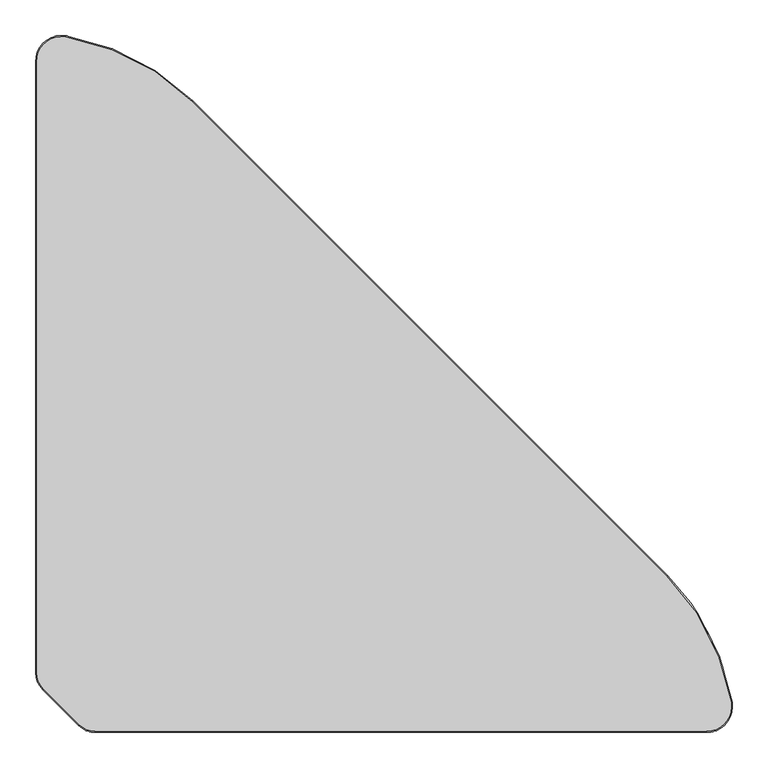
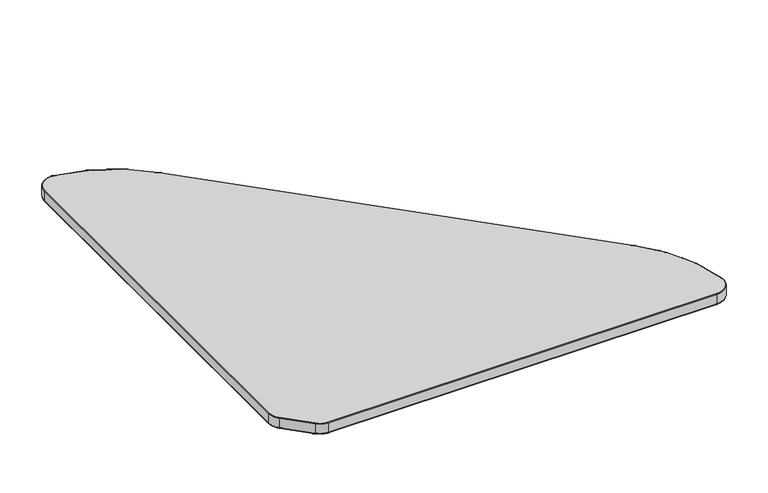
"""IFC4 building model written with IfcOpenShell, lengths in millimetres: furniture geometry, Furniture_Wilkhahn_mAx_461-10 : mAx_461-10_900L x 900W x 730H-Straight with Plastic Lipping."""

import ifcopenshell
import ifcopenshell.guid

model = None  # the IFC model being written
_history = None  # IfcOwnerHistory: only IFC2X3 demands one
_inside = {}  # id of a spatial element -> (the spatial element, [elements in it])
_under = {}  # id of a project, library or spatial element -> (it, [spatial elements below it])
_declared = {}  # id of a project -> (the project, [libraries it declares])
_typed = {}  # id of a type object -> (the type object, [elements of that type])
_made_of = {}  # id of a material, layer set ... -> (it, [elements and type objects made of it])


def new_model(schema):
    """Start an empty IFC model of exactly this schema.

    Asked for "IFC4X3", IfcOpenShell would pick the latest addendum, in which some entities
    have other attributes; the version numbers below select the first issue.
    IFC2X3 requires an IfcOwnerHistory on every rooted entity: one is made here for all.
    """
    global model, _history
    if schema == "IFC4X3":
        model = ifcopenshell.file(schema_version=(4, 3, 0, 0))
    else:
        model = ifcopenshell.file(schema=schema)
    _inside.clear()
    _under.clear()
    _declared.clear()
    _typed.clear()
    _made_of.clear()
    _history = None
    if model.schema == "IFC2X3":
        org = make("IfcOrganization", Name="unknown")
        user = make(
            "IfcPersonAndOrganization",
            ThePerson=make("IfcPerson", FamilyName="unknown"),
            TheOrganization=org,
        )
        app = make(
            "IfcApplication",
            ApplicationDeveloper=org,
            Version="unknown",
            ApplicationFullName="unknown",
            ApplicationIdentifier="unknown",
        )
        _history = make(
            "IfcOwnerHistory",
            OwningUser=user,
            OwningApplication=app,
            ChangeAction="ADDED",
            CreationDate=0,
        )
    return model


def make(cls, **values):
    """One entity of the class cls with the attributes given. An attribute that is None is left unset."""
    return model.create_entity(
        cls, **{name: value for name, value in values.items() if value is not None}
    )


def rooted(cls, **values):
    """An entity with a GlobalId (a new one), such as an element, a storey or a relation."""
    return make(cls, GlobalId=ifcopenshell.guid.new(), OwnerHistory=_history, **values)


def si_unit(unit_type, name, prefix=None):
    """IfcSIUnit, for example si_unit("LENGTHUNIT", "METRE", prefix="MILLI")."""
    return make("IfcSIUnit", UnitType=unit_type, Prefix=prefix, Name=name)


def assignment(units):
    """IfcUnitAssignment: the units of a project."""
    return None if units is None else make("IfcUnitAssignment", Units=units)


def point(xyz):
    """IfcCartesianPoint."""
    return None if xyz is None else make("IfcCartesianPoint", Coordinates=xyz)


def direction(xyz):
    """IfcDirection."""
    return None if xyz is None else make("IfcDirection", DirectionRatios=xyz)


def frame(location, z_axis=None, x_axis=None):
    """IfcAxis2Placement3D, a coordinate frame: its origin and axes. An axis left out is left unset."""
    return make(
        "IfcAxis2Placement3D",
        Location=point(location),
        Axis=direction(z_axis),
        RefDirection=direction(x_axis),
    )


def frame_2d(location, x_axis=None):
    """IfcAxis2Placement2D, a coordinate frame in the plane: its origin and x axis."""
    return make(
        "IfcAxis2Placement2D", Location=point(location), RefDirection=direction(x_axis)
    )


def origin():
    """The frame at (0, 0, 0) with its axes left unset."""
    return frame((0.0, 0.0, 0.0))


def place(relative_to, where):
    """IfcLocalPlacement: puts the frame where relative to a parent placement (None: the world)."""
    return make(
        "IfcLocalPlacement", PlacementRelTo=relative_to, RelativePlacement=where
    )


def context(
    kind, dimensions, precision=None, world=None, true_north=None, identifier=None
):
    """IfcGeometricRepresentationContext, for example the 3D "Model" context."""
    return make(
        "IfcGeometricRepresentationContext",
        ContextIdentifier=identifier,
        ContextType=kind,
        CoordinateSpaceDimension=dimensions,
        Precision=precision,
        WorldCoordinateSystem=world,
        TrueNorth=true_north,
    )


def project(units=None, contexts=None):
    """IfcProject with its units and contexts."""
    return rooted(
        "IfcProject",
        Name="project",
        RepresentationContexts=contexts,
        UnitsInContext=assignment(units),
    )


def spatial(cls, under=None, at=None, **own):
    """A site, building, storey or space (cls), placed at a placement, below another one or the project."""
    s = rooted(cls, ObjectPlacement=at, **own)
    if under is not None:
        _under.setdefault(under.id(), (under, []))[1].append(s)
    return s


def polyline(points):
    """IfcPolyline through the points."""
    return make("IfcPolyline", Points=[point(p) for p in points])


def circle_curve(where, radius):
    """IfcCircle in the frame where."""
    return make("IfcCircle", Position=where, Radius=radius)


def ellipse_curve(where, semi_axis1, semi_axis2):
    """IfcEllipse in the frame where."""
    return make(
        "IfcEllipse", Position=where, SemiAxis1=semi_axis1, SemiAxis2=semi_axis2
    )


def trimmed(basis, trim1, trim2, sense, master):
    """IfcTrimmedCurve: the piece of a basis curve between two trims."""
    return make(
        "IfcTrimmedCurve",
        BasisCurve=basis,
        Trim1=trim1,
        Trim2=trim2,
        SenseAgreement=sense,
        MasterRepresentation=master,
    )


def segment(curve, same_sense, transition):
    """IfcCompositeCurveSegment."""
    return make(
        "IfcCompositeCurveSegment",
        Transition=transition,
        SameSense=same_sense,
        ParentCurve=curve,
    )


def composite_curve(segments, self_intersect=None):
    """IfcCompositeCurve: segments joined end to end."""
    return make("IfcCompositeCurve", Segments=segments, SelfIntersect=self_intersect)


def outline(outer, holes=None, kind="AREA"):
    """IfcArbitraryClosedProfileDef: a profile drawn as a closed curve; with holes, ...WithVoids."""
    if holes is None:
        return make("IfcArbitraryClosedProfileDef", ProfileType=kind, OuterCurve=outer)
    return make(
        "IfcArbitraryProfileDefWithVoids",
        ProfileType=kind,
        OuterCurve=outer,
        InnerCurves=holes,
    )


def extrude(swept, where, along, depth):
    """IfcExtrudedAreaSolid: the profile swept, set in the frame where, extruded along a direction by depth."""
    return make(
        "IfcExtrudedAreaSolid",
        SweptArea=swept,
        Position=where,
        ExtrudedDirection=direction(along),
        Depth=depth,
    )


def shape(context_of_items, identifier, shape_type, items):
    """IfcShapeRepresentation: the items that make up one representation, for example the "Body"."""
    return make(
        "IfcShapeRepresentation",
        ContextOfItems=context_of_items,
        RepresentationIdentifier=identifier,
        RepresentationType=shape_type,
        Items=items,
    )


def source(mapping_origin, context_of_items, identifier, shape_type, items):
    """IfcRepresentationMap: a shape defined once, which mapped items show again and again."""
    return make(
        "IfcRepresentationMap",
        MappingOrigin=mapping_origin,
        MappedRepresentation=shape(context_of_items, identifier, shape_type, items),
    )


def transform(
    local_origin,
    x_axis=None,
    y_axis=None,
    z_axis=None,
    scale=None,
    scale2=None,
    scale3=None,
    uniform=True,
):
    """IfcCartesianTransformationOperator3D, or its non-uniform kind. x_axis, y_axis, z_axis: its Axis1, 2, 3."""
    if uniform:
        return make(
            "IfcCartesianTransformationOperator3D",
            Axis1=direction(x_axis),
            Axis2=direction(y_axis),
            LocalOrigin=point(local_origin),
            Scale=scale,
            Axis3=direction(z_axis),
        )
    return make(
        "IfcCartesianTransformationOperator3DnonUniform",
        Axis1=direction(x_axis),
        Axis2=direction(y_axis),
        LocalOrigin=point(local_origin),
        Scale=scale,
        Axis3=direction(z_axis),
        Scale2=scale2,
        Scale3=scale3,
    )


def mapped(mapping_source, mapping_target):
    """IfcMappedItem: shows the shape of a source again, moved by a transform."""
    return make(
        "IfcMappedItem", MappingSource=mapping_source, MappingTarget=mapping_target
    )


def made_of(thing, what):
    """Note that an element or type object is made of a material, layer set ...; save() writes the relation."""
    if what is not None:
        _made_of.setdefault(what.id(), (what, []))[1].append(thing)
    return thing


def element(
    cls,
    number,
    at=None,
    inside=None,
    cuts=None,
    type_object=None,
    material=None,
    context=None,
    identifier="Body",
    shape_type=None,
    held_by="IfcProductDefinitionShape",
    body=None,
    shapes=None,
    **own,
):
    """One element of the class cls, such as IfcWall. Its Tag is "e" and its number.

    at: its placement. inside: the storey or other place that contains it. cuts: it is an
    opening in that element (IfcRelVoidsElement). A single representation is given by context,
    identifier, shape_type and body (its items); several are given by shapes. held_by: the class
    of the entity that holds the representations. save() writes the other relations.
    """
    e = rooted(cls, Tag="e%d" % number, ObjectPlacement=at, **own)
    if body is not None:
        shapes = [shape(context, identifier, shape_type, body)]
    if shapes is not None:
        e.Representation = make(held_by, Representations=shapes)
    if inside is not None:
        _inside.setdefault(inside.id(), (inside, []))[1].append(e)
    if cuts is not None:
        rooted(
            "IfcRelVoidsElement", RelatingBuildingElement=cuts, RelatedOpeningElement=e
        )
    if type_object is not None:
        _typed.setdefault(type_object.id(), (type_object, []))[1].append(e)
    return made_of(e, material)


def aggregate(whole, parts):
    """IfcRelAggregates: a whole, such as a stair, and the parts it consists of."""
    return rooted("IfcRelAggregates", RelatingObject=whole, RelatedObjects=parts)


def save(model, path):
    """Write the relations noted so far, then the file.

    IfcRelAggregates (storeys below a building ...), IfcRelContainedInSpatialStructure (elements
    in a storey), IfcRelDefinesByType, IfcRelAssociatesMaterial and IfcRelDeclares: one each for
    every whole, place, type object, material and project.
    """
    for whole, parts in _under.values():
        aggregate(whole, parts)
    for where, things in _inside.values():
        rooted(
            "IfcRelContainedInSpatialStructure",
            RelatedElements=things,
            RelatingStructure=where,
        )
    for kind, things in _typed.values():
        rooted("IfcRelDefinesByType", RelatedObjects=things, RelatingType=kind)
    for what, things in _made_of.values():
        rooted("IfcRelAssociatesMaterial", RelatedObjects=things, RelatingMaterial=what)
    for by, libraries in _declared.values():
        rooted("IfcRelDeclares", RelatingContext=by, RelatedDefinitions=libraries)
    model.write(path)


def plane_surface(at):
    """IfcPlane: the flat surface through the origin of the frame at, square to its z axis."""
    return make("IfcPlane", Position=at)


def cylinder_surface(at, radius):
    """IfcCylindricalSurface: all points at the distance radius from the z axis of the frame at."""
    return make("IfcCylindricalSurface", Position=at, Radius=radius)


def revolved_surface(curve, axis_point, axis_direction):
    """IfcSurfaceOfRevolution: the curve turned about the line through axis_point along axis_direction."""
    return make(
        "IfcSurfaceOfRevolution",
        SweptCurve=make("IfcArbitraryOpenProfileDef", ProfileType="CURVE", Curve=curve),
        AxisPosition=make("IfcAxis1Placement", Location=point(axis_point), Axis=direction(axis_direction)),
    )


def advanced_brep(points, edges, surfaces, faces):
    """IfcAdvancedBrep: a solid bounded by faces that lie on surfaces and meet in shared edges.

    An edge is (start, end): straight between two places in points (the first is 0);
    or (start, end, curve); or (start, end, curve, False) where it runs against its curve.
    A face is (place in surfaces, loops), or (place, loops, False) where it looks against
    its surface's normal. A loop lists edges by number (the first is 1), with a minus sign
    where the edge is run from its end to its start. The first loop is the outer one.
    """
    corners = [point(p) for p in points]
    vertices = [make("IfcVertexPoint", VertexGeometry=c) for c in corners]
    made = []
    for start, end, *more in edges:
        made.append(
            make(
                "IfcEdgeCurve",
                EdgeStart=vertices[start],
                EdgeEnd=vertices[end],
                EdgeGeometry=more[0] if more else make("IfcPolyline", Points=[corners[start], corners[end]]),
                SameSense=more[1] if len(more) > 1 else True,
            )
        )
    hull = []
    for where, loops, *sense in faces:
        bounds = []
        for j, loop in enumerate(loops):
            ring = [make("IfcOrientedEdge", EdgeElement=made[abs(k) - 1], Orientation=k > 0) for k in loop]
            bounds.append(
                make(
                    "IfcFaceOuterBound" if j == 0 else "IfcFaceBound",
                    Bound=make("IfcEdgeLoop", EdgeList=ring),
                    Orientation=True,
                )
            )
        hull.append(make("IfcAdvancedFace", Bounds=bounds, FaceSurface=surfaces[where], SameSense=sense[0] if sense else True))
    return make("IfcAdvancedBrep", Outer=make("IfcClosedShell", CfsFaces=hull))


def furniture_2c85a095(model_context):
    return source(origin(), model_context, "Body", "SolidModel", [
        extrude(outline(composite_curve([segment(polyline([(699.4444598, -248.2), (699.4444598, -263.2), (698.6411472, -263.2)]), True, "CONTINUOUS"), segment(trimmed(circle_curve(frame_2d((698.6411472, -240.7)), 22.5), [point((698.6411472, -263.2))], [point((676.1411472, -240.7))], False, "CARTESIAN"), True, "CONTINUOUS"), segment(polyline([(676.1411472, -240.7), (676.1411472, -230.9851209)]), True, "CONTINUOUS"), segment(trimmed(circle_curve(frame_2d((691.6411472, -230.9851209)), 15.5), [point((676.1411472, -230.9851209))], [point((691.6411472, -215.4851209))], False, "CARTESIAN"), True, "CONTINUOUS"), segment(polyline([(691.6411472, -215.4851209), (698.2216542, -215.4851209), (698.2216542, -230.4851209), (691.6411472, -230.4851209)]), True, "CONTINUOUS"), segment(trimmed(circle_curve(frame_2d((691.6411472, -230.9851209)), 0.5), [point((691.6411472, -230.4851209))], [point((691.1411472, -230.9851209))], True, "CARTESIAN"), True, "CONTINUOUS"), segment(polyline([(691.1411472, -230.9851209), (691.1411472, -240.7)]), True, "CONTINUOUS"), segment(trimmed(circle_curve(frame_2d((698.6411472, -240.7)), 7.5), [point((691.1411472, -240.7))], [point((698.6411472, -248.2))], True, "CARTESIAN"), True, "CONTINUOUS"), segment(polyline([(698.6411472, -248.2), (699.4444598, -248.2)]), True, "CONTINUOUS")], self_intersect=False)), frame((0.0, -787.8982692, 0.0), z_axis=(0.0, 1.0, 0.0), x_axis=(0.0, 0.0, 1.0)), (0.0, 0.0, 1.0), 13.865484),
        extrude(outline(composite_curve([segment(trimmed(circle_curve(frame_2d((-203.2, -811.5585218)), 9.0), [point((-194.2, -811.5585218))], [point((-203.2, -820.5585218))], False, "CARTESIAN"), True, "CONTINUOUS"), segment(polyline([(-203.2, -820.5585218), (-308.2, -820.5585218)]), True, "CONTINUOUS"), segment(trimmed(circle_curve(frame_2d((-308.2, -811.5585218)), 9.0), [point((-308.2, -820.5585218))], [point((-317.2, -811.5585218))], False, "CARTESIAN"), True, "CONTINUOUS"), segment(polyline([(-317.2, -811.5585218), (-317.2, -750.3725325)]), True, "CONTINUOUS"), segment(trimmed(circle_curve(frame_2d((-308.2, -750.3725325)), 9.0), [point((-317.2, -750.3725325))], [point((-308.2, -741.3725325))], False, "CARTESIAN"), True, "CONTINUOUS"), segment(polyline([(-308.2, -741.3725325), (-203.2, -741.3725325)]), True, "CONTINUOUS"), segment(trimmed(circle_curve(frame_2d((-203.2, -750.3725325)), 9.0), [point((-203.2, -741.3725325))], [point((-194.2, -750.3725325))], False, "CARTESIAN"), True, "CONTINUOUS"), segment(polyline([(-194.2, -750.3725325), (-194.2, -811.5585218)]), True, "CONTINUOUS")], self_intersect=False)), frame((0.0, 0.0, 700.0), z_axis=(0.0, 0.0, 1.0), x_axis=(1.0, 0.0, 0.0)), (0.0, 0.0, 1.0), 5.0),
        extrude(outline(composite_curve([segment(polyline([(699.4444598, -263.2), (698.6411472, -263.2)]), True, "CONTINUOUS"), segment(trimmed(circle_curve(frame_2d((698.6411472, -240.7)), 22.5), [point((698.6411472, -263.2))], [point((676.1411472, -240.7))], False, "CARTESIAN"), True, "CONTINUOUS"), segment(polyline([(676.1411472, -240.7), (676.1411472, -230.9851209)]), True, "CONTINUOUS"), segment(trimmed(circle_curve(frame_2d((691.6411472, -230.9851209)), 15.5), [point((676.1411472, -230.9851209))], [point((691.6411472, -215.4851209))], False, "CARTESIAN"), True, "CONTINUOUS"), segment(polyline([(691.6411472, -215.4851209), (698.2216542, -215.4851209), (698.2216542, -230.4851209), (691.6411472, -230.4851209)]), True, "CONTINUOUS"), segment(trimmed(circle_curve(frame_2d((691.6411472, -230.9851209)), 0.5), [point((691.6411472, -230.4851209))], [point((691.1411472, -230.9851209))], True, "CARTESIAN"), True, "CONTINUOUS"), segment(polyline([(691.1411472, -230.9851209), (691.1411472, -240.7)]), True, "CONTINUOUS"), segment(trimmed(circle_curve(frame_2d((698.6411472, -240.7)), 7.5), [point((691.1411472, -240.7))], [point((698.6411472, -248.2))], True, "CARTESIAN"), True, "CONTINUOUS"), segment(polyline([(698.6411472, -248.2), (699.4444598, -248.2), (699.4444598, -263.2)]), True, "CONTINUOUS")], self_intersect=False)), frame((0.0, -1087.8982692, 0.0), z_axis=(0.0, 1.0, 0.0), x_axis=(0.0, 0.0, 1.0)), (0.0, 0.0, 1.0), 13.865484),
        extrude(outline(composite_curve([segment(polyline([(-194.2, -1050.3725325), (-194.2, -1111.5585218)]), True, "CONTINUOUS"), segment(trimmed(circle_curve(frame_2d((-203.2, -1111.5585218)), 9.0), [point((-194.2, -1111.5585218))], [point((-203.2, -1120.5585218))], False, "CARTESIAN"), True, "CONTINUOUS"), segment(polyline([(-203.2, -1120.5585218), (-308.2, -1120.5585218)]), True, "CONTINUOUS"), segment(trimmed(circle_curve(frame_2d((-308.2, -1111.5585218)), 9.0), [point((-308.2, -1120.5585218))], [point((-317.2, -1111.5585218))], False, "CARTESIAN"), True, "CONTINUOUS"), segment(polyline([(-317.2, -1111.5585218), (-317.2, -1050.3725325)]), True, "CONTINUOUS"), segment(trimmed(circle_curve(frame_2d((-308.2, -1050.3725325)), 9.0), [point((-317.2, -1050.3725325))], [point((-308.2, -1041.3725325))], False, "CARTESIAN"), True, "CONTINUOUS"), segment(polyline([(-308.2, -1041.3725325), (-203.2, -1041.3725325)]), True, "CONTINUOUS"), segment(trimmed(circle_curve(frame_2d((-203.2, -1050.3725325)), 9.0), [point((-203.2, -1041.3725325))], [point((-194.2, -1050.3725325))], False, "CARTESIAN"), True, "CONTINUOUS")], self_intersect=False)), frame((0.0, 0.0, 700.0), z_axis=(0.0, 0.0, 1.0), x_axis=(1.0, 0.0, 0.0)), (0.0, 0.0, 1.0), 5.0),
        extrude(outline(composite_curve([segment(polyline([(-1344.1655271, 699.4444598), (-1329.1655271, 699.4444598), (-1329.1655271, 698.6411472)]), True, "CONTINUOUS"), segment(trimmed(circle_curve(frame_2d((-1321.6655271, 698.6411472)), 7.5), [point((-1329.1655271, 698.6411472))], [point((-1321.6655271, 691.1411472))], True, "CARTESIAN"), True, "CONTINUOUS"), segment(polyline([(-1321.6655271, 691.1411472), (-1311.9506481, 691.1411472)]), True, "CONTINUOUS"), segment(trimmed(circle_curve(frame_2d((-1311.9506481, 691.6411472)), 0.5), [point((-1311.9506481, 691.1411472))], [point((-1311.4506481, 691.6411472))], True, "CARTESIAN"), True, "CONTINUOUS"), segment(polyline([(-1311.4506481, 691.6411472), (-1311.4506481, 698.2216542), (-1296.4506481, 698.2216542), (-1296.4506481, 691.6411472)]), True, "CONTINUOUS"), segment(trimmed(circle_curve(frame_2d((-1311.9506481, 691.6411472)), 15.5), [point((-1296.4506481, 691.6411472))], [point((-1311.9506481, 676.1411472))], False, "CARTESIAN"), True, "CONTINUOUS"), segment(polyline([(-1311.9506481, 676.1411472), (-1321.6655271, 676.1411472)]), True, "CONTINUOUS"), segment(trimmed(circle_curve(frame_2d((-1321.6655271, 698.6411472)), 22.5), [point((-1321.6655271, 676.1411472))], [point((-1344.1655271, 698.6411472))], False, "CARTESIAN"), True, "CONTINUOUS"), segment(polyline([(-1344.1655271, 698.6411472), (-1344.1655271, 699.4444598)]), True, "CONTINUOUS")], self_intersect=False)), frame((-6.932742, 0.0, 0.0), z_axis=(1.0, 0.0, 0.0), x_axis=(0.0, 1.0, 0.0)), (0.0, 0.0, 1.0), 13.865484),
        extrude(outline(composite_curve([segment(trimmed(circle_curve(frame_2d((30.5929946, -1284.1655271)), 9.0), [point((30.5929946, -1275.1655271))], [point((39.5929946, -1284.1655271))], False, "CARTESIAN"), True, "CONTINUOUS"), segment(polyline([(39.5929946, -1284.1655271), (39.5929946, -1389.1655271)]), True, "CONTINUOUS"), segment(trimmed(circle_curve(frame_2d((30.5929946, -1389.1655271)), 9.0), [point((39.5929946, -1389.1655271))], [point((30.5929946, -1398.1655271))], False, "CARTESIAN"), True, "CONTINUOUS"), segment(polyline([(30.5929946, -1398.1655271), (-30.5929946, -1398.1655271)]), True, "CONTINUOUS"), segment(trimmed(circle_curve(frame_2d((-30.5929946, -1389.1655271)), 9.0), [point((-30.5929946, -1398.1655271))], [point((-39.5929946, -1389.1655271))], False, "CARTESIAN"), True, "CONTINUOUS"), segment(polyline([(-39.5929946, -1389.1655271), (-39.5929946, -1284.1655271)]), True, "CONTINUOUS"), segment(trimmed(circle_curve(frame_2d((-30.5929946, -1284.1655271)), 9.0), [point((-39.5929946, -1284.1655271))], [point((-30.5929946, -1275.1655271))], False, "CARTESIAN"), True, "CONTINUOUS"), segment(polyline([(-30.5929946, -1275.1655271), (30.5929946, -1275.1655271)]), True, "CONTINUOUS")], self_intersect=False)), frame((0.0, 0.0, 700.0), z_axis=(0.0, 0.0, 1.0), x_axis=(1.0, 0.0, 0.0)), (0.0, 0.0, 1.0), 5.0),
        extrude(outline(composite_curve([segment(polyline([(-1329.1655271, 699.4444598), (-1329.1655271, 698.6411472)]), True, "CONTINUOUS"), segment(trimmed(circle_curve(frame_2d((-1321.6655271, 698.6411472)), 7.5), [point((-1329.1655271, 698.6411472))], [point((-1321.6655271, 691.1411472))], True, "CARTESIAN"), True, "CONTINUOUS"), segment(polyline([(-1321.6655271, 691.1411472), (-1311.9506481, 691.1411472)]), True, "CONTINUOUS"), segment(trimmed(circle_curve(frame_2d((-1311.9506481, 691.6411472)), 0.5), [point((-1311.9506481, 691.1411472))], [point((-1311.4506481, 691.6411472))], True, "CARTESIAN"), True, "CONTINUOUS"), segment(polyline([(-1311.4506481, 691.6411472), (-1311.4506481, 698.2216542), (-1296.4506481, 698.2216542), (-1296.4506481, 691.6411472)]), True, "CONTINUOUS"), segment(trimmed(circle_curve(frame_2d((-1311.9506481, 691.6411472)), 15.5), [point((-1296.4506481, 691.6411472))], [point((-1311.9506481, 676.1411472))], False, "CARTESIAN"), True, "CONTINUOUS"), segment(polyline([(-1311.9506481, 676.1411472), (-1321.6655271, 676.1411472)]), True, "CONTINUOUS"), segment(trimmed(circle_curve(frame_2d((-1321.6655271, 698.6411472)), 22.5), [point((-1321.6655271, 676.1411472))], [point((-1344.1655271, 698.6411472))], False, "CARTESIAN"), True, "CONTINUOUS"), segment(polyline([(-1344.1655271, 698.6411472), (-1344.1655271, 699.4444598), (-1329.1655271, 699.4444598)]), True, "CONTINUOUS")], self_intersect=False)), frame((293.067258, 0.0, 0.0), z_axis=(1.0, 0.0, 0.0), x_axis=(0.0, 1.0, 0.0)), (0.0, 0.0, 1.0), 13.865484),
        extrude(outline(composite_curve([segment(polyline([(269.4070054, -1275.1655271), (330.5929946, -1275.1655271)]), True, "CONTINUOUS"), segment(trimmed(circle_curve(frame_2d((330.5929946, -1284.1655271)), 9.0), [point((330.5929946, -1275.1655271))], [point((339.5929946, -1284.1655271))], False, "CARTESIAN"), True, "CONTINUOUS"), segment(polyline([(339.5929946, -1284.1655271), (339.5929946, -1389.1655271)]), True, "CONTINUOUS"), segment(trimmed(circle_curve(frame_2d((330.5929946, -1389.1655271)), 9.0), [point((339.5929946, -1389.1655271))], [point((330.5929946, -1398.1655271))], False, "CARTESIAN"), True, "CONTINUOUS"), segment(polyline([(330.5929946, -1398.1655271), (269.4070054, -1398.1655271)]), True, "CONTINUOUS"), segment(trimmed(circle_curve(frame_2d((269.4070054, -1389.1655271)), 9.0), [point((269.4070054, -1398.1655271))], [point((260.4070054, -1389.1655271))], False, "CARTESIAN"), True, "CONTINUOUS"), segment(polyline([(260.4070054, -1389.1655271), (260.4070054, -1284.1655271)]), True, "CONTINUOUS"), segment(trimmed(circle_curve(frame_2d((269.4070054, -1284.1655271)), 9.0), [point((260.4070054, -1284.1655271))], [point((269.4070054, -1275.1655271))], False, "CARTESIAN"), True, "CONTINUOUS")], self_intersect=False)), frame((0.0, 0.0, 700.0), z_axis=(0.0, 0.0, 1.0), x_axis=(1.0, 0.0, 0.0)), (0.0, 0.0, 1.0), 5.0),
        advanced_brep(
        [(-256.1433983, -1419.8155271, 730.0), (602.8446088, -1419.8155271, 730.0), (637.3974832, -1379.238891, 730.0), (546.3590676, -1201.2122368, 730.0), (-120.2467097, -534.6064596, 730.0), (-298.2733639, -443.568044, 730.0), (-338.85, -478.1209184, 730.0), (-338.85, -1337.1089254, 730.0), (-329.3309704, -1360.0898958, 730.0), (-279.1243687, -1410.2964975, 730.0), (-256.1433983, -1421.3155271, 728.5), (602.8446088, -1421.3155271, 728.5), (547.4197278, -1200.1515766, 706.5), (546.3590676, -1201.2122368, 705.0), (-120.2467097, -534.6064596, 705.0), (-119.1860495, -533.5457994, 706.5), (-119.1860495, -533.5457994, 728.5), (547.4197278, -1200.1515766, 728.5), (602.8446088, -1421.3155271, 706.5), (602.8446088, -1419.8155271, 705.0), (637.3974832, -1379.238891, 705.0), (638.8783206, -1378.9998923, 706.5), (638.8783206, -1378.9998923, 728.5), (-298.0343652, -442.0872065, 706.5), (-298.0343652, -442.0872065, 728.5), (-256.1433983, -1419.8155271, 705.0), (-279.1243687, -1410.2964975, 705.0), (-329.3309704, -1360.0898958, 705.0), (-338.85, -1337.1089254, 705.0), (-338.85, -478.1209184, 705.0), (-298.2733639, -443.568044, 705.0), (-340.35, -478.1209184, 706.5), (-340.35, -478.1209184, 728.5), (-256.1433983, -1421.3155271, 706.5), (-340.35, -1337.1089254, 706.5), (-340.35, -1337.1089254, 728.5), (-330.3916306, -1361.150556, 706.5), (-330.3916306, -1361.150556, 728.5), (-280.1850288, -1411.3571577, 706.5), (-280.1850288, -1411.3571577, 728.5)],
        [
            (0, 1),
            (1, 2, circle_curve(frame((602.8446088, -1384.8155271, 730.0), z_axis=(0.0, 0.0, 1.0), x_axis=(0.0, -1.0, 0.0)), 35.0)),
            (2, 3, circle_curve(frame((316.5493637, -1431.0219407, 730.0), z_axis=(0.0, 0.0, 1.0), x_axis=(0.9872249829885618, 0.15933246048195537, 0.0)), 325.0)),
            (3, 4),
            (4, 5, circle_curve(frame((-350.0564135, -764.4161635, 730.0), z_axis=(0.0, 0.0, 1.0), x_axis=(0.7071067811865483, 0.7071067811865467, 0.0)), 325.0)),
            (5, 6, circle_curve(frame((-303.85, -478.1209184, 730.0), z_axis=(0.0, 0.0, 1.0), x_axis=(0.1593324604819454, 0.9872249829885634, 0.0)), 35.0)),
            (6, 7),
            (7, 8, circle_curve(frame((-306.35, -1337.1089254, 730.0), z_axis=(0.0, 0.0, 1.0), x_axis=(-1.0, 0.0, 0.0)), 32.5)),
            (8, 9),
            (9, 0, circle_curve(frame((-256.1433983, -1387.3155271, 730.0), z_axis=(0.0, 0.0, 1.0), x_axis=(-0.7071067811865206, -0.7071067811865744, 0.0)), 32.5)),
            (10, 11),
            (11, 1, circle_curve(frame((602.8446088, -1419.8155271, 728.5), z_axis=(-1.0, 0.0, 0.0), x_axis=(0.0, 1.0, 0.0)), 1.5)),
            (0, 10, circle_curve(frame((-256.1433983, -1419.8155271, 728.5), z_axis=(1.0, 0.0, 0.0), x_axis=(0.0, 1.0, 0.0)), 1.5)),
            (12, 13, circle_curve(frame((546.3590676, -1201.2122368, 706.5), z_axis=(-0.7071067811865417, 0.7071067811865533, 0.0), x_axis=(-0.7071067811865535, -0.7071067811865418, 0.0)), 1.5)),
            (13, 14),
            (14, 15, circle_curve(frame((-120.2467097, -534.6064596, 706.5), z_axis=(0.7071067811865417, -0.7071067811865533, 0.0), x_axis=(-0.7071067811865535, -0.7071067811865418, 0.0)), 1.5)),
            (15, 12),
            (15, 16),
            (16, 17),
            (17, 12),
            (18, 19, circle_curve(frame((602.8446088, -1419.8155271, 706.5), z_axis=(1.0, 0.0, 0.0), x_axis=(0.0, 1.0, 0.0)), 1.5)),
            (19, 20, circle_curve(frame((602.8446088, -1384.8155271, 705.0), z_axis=(0.0, 0.0, 1.0), x_axis=(0.0, -1.0, 0.0)), 35.0)),
            (20, 21, circle_curve(frame((637.3974832, -1379.238891, 706.5), z_axis=(0.1593324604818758, -0.9872249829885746, 0.0), x_axis=(-0.9872249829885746, -0.1593324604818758, 0.0)), 1.5)),
            (21, 18, circle_curve(frame((602.8446088, -1384.8155271, 706.5), z_axis=(0.0, 0.0, -1.0), x_axis=(0.0, -1.0, 0.0)), 36.5)),
            (17, 22, circle_curve(frame((316.5493637, -1431.0219407, 728.5), z_axis=(0.0, 0.0, -1.0), x_axis=(0.9872249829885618, 0.15933246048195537, 0.0)), 326.5)),
            (22, 21),
            (21, 12, circle_curve(frame((316.5493637, -1431.0219407, 706.5), z_axis=(0.0, 0.0, 1.0), x_axis=(0.9872249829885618, 0.15933246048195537, 0.0)), 326.5)),
            (15, 23, circle_curve(frame((-350.0564135, -764.4161635, 706.5), z_axis=(0.0, 0.0, 1.0), x_axis=(0.7071067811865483, 0.7071067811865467, 0.0)), 326.5)),
            (23, 24),
            (24, 16, circle_curve(frame((-350.0564135, -764.4161635, 728.5), z_axis=(0.0, 0.0, -1.0), x_axis=(0.7071067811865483, 0.7071067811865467, 0.0)), 326.5)),
            (4, 16, circle_curve(frame((-120.2467097, -534.6064596, 728.5), z_axis=(-0.7071067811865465, 0.7071067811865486, 0.0), x_axis=(-0.7071067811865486, -0.7071067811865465, 0.0)), 1.5)),
            (24, 5, circle_curve(frame((-298.2733639, -443.568044, 728.5), z_axis=(0.9872249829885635, -0.15933246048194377, 0.0), x_axis=(-0.15933246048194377, -0.9872249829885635, 0.0)), 1.5)),
            (19, 25),
            (25, 26, circle_curve(frame((-256.1433983, -1387.3155271, 705.0), z_axis=(0.0, 0.0, -1.0), x_axis=(-0.7071067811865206, -0.7071067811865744, 0.0)), 32.5)),
            (26, 27),
            (27, 28, circle_curve(frame((-306.35, -1337.1089254, 705.0), z_axis=(0.0, 0.0, -1.0), x_axis=(-1.0, 0.0, 0.0)), 32.5)),
            (28, 29),
            (29, 30, circle_curve(frame((-303.85, -478.1209184, 705.0), z_axis=(0.0, 0.0, -1.0), x_axis=(0.1593324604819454, 0.9872249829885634, 0.0)), 35.0)),
            (30, 14, circle_curve(frame((-350.0564135, -764.4161635, 705.0), z_axis=(0.0, 0.0, -1.0), x_axis=(0.7071067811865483, 0.7071067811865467, 0.0)), 325.0)),
            (13, 20, circle_curve(frame((316.5493637, -1431.0219407, 705.0), z_axis=(0.0, 0.0, -1.0), x_axis=(0.9872249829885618, 0.15933246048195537, 0.0)), 325.0)),
            (29, 31, circle_curve(frame((-338.85, -478.1209184, 706.5), z_axis=(0.0, 1.0, 0.0), x_axis=(1.0, 0.0, 0.0)), 1.5)),
            (31, 23, circle_curve(frame((-303.85, -478.1209184, 706.5), z_axis=(0.0, 0.0, -1.0), x_axis=(0.1593324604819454, 0.9872249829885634, 0.0)), 36.5)),
            (23, 30, circle_curve(frame((-298.2733639, -443.568044, 706.5), z_axis=(-0.9872249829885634, 0.15933246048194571, 0.0), x_axis=(-0.15933246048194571, -0.9872249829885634, 0.0)), 1.5)),
            (31, 32),
            (32, 24, circle_curve(frame((-303.85, -478.1209184, 728.5), z_axis=(0.0, 0.0, -1.0), x_axis=(0.1593324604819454, 0.9872249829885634, 0.0)), 36.5)),
            (32, 6, circle_curve(frame((-338.85, -478.1209184, 728.5), z_axis=(0.0, 1.0, 0.0), x_axis=(1.0, 0.0, 0.0)), 1.5)),
            (33, 25, circle_curve(frame((-256.1433983, -1419.8155271, 706.5), z_axis=(1.0, 0.0, 0.0), x_axis=(0.0, 1.0, 0.0)), 1.5)),
            (18, 33),
            (18, 11),
            (10, 33),
            (28, 34, circle_curve(frame((-338.85, -1337.1089254, 706.5), z_axis=(0.0, 1.0, 0.0), x_axis=(1.0, 0.0, 0.0)), 1.5)),
            (34, 31),
            (34, 35),
            (35, 32),
            (35, 7, circle_curve(frame((-338.85, -1337.1089254, 728.5), z_axis=(0.0, 1.0, 0.0), x_axis=(1.0, 0.0, 0.0)), 1.5)),
            (27, 36, circle_curve(frame((-329.3309704, -1360.0898958, 706.5), z_axis=(-0.7071067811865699, 0.7071067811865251, 0.0), x_axis=(0.7071067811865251, 0.7071067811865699, 0.0)), 1.5)),
            (36, 34, circle_curve(frame((-306.35, -1337.1089254, 706.5), z_axis=(0.0, 0.0, -1.0), x_axis=(-1.0, 0.0, 0.0)), 34.0)),
            (36, 37),
            (37, 35, circle_curve(frame((-306.35, -1337.1089254, 728.5), z_axis=(0.0, 0.0, -1.0), x_axis=(-1.0, 0.0, 0.0)), 34.0)),
            (37, 8, circle_curve(frame((-329.3309704, -1360.0898958, 728.5), z_axis=(-0.7071067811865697, 0.7071067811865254, 0.0), x_axis=(0.7071067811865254, 0.7071067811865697, 0.0)), 1.5)),
            (26, 38, circle_curve(frame((-279.1243687, -1410.2964975, 706.5), z_axis=(-0.7071067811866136, 0.7071067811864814, 0.0), x_axis=(0.7071067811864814, 0.7071067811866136, 0.0)), 1.5)),
            (38, 36),
            (38, 39),
            (39, 37),
            (39, 9, circle_curve(frame((-279.1243687, -1410.2964975, 728.5), z_axis=(-0.7071067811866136, 0.7071067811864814, 0.0), x_axis=(0.7071067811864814, 0.7071067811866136, 0.0)), 1.5)),
            (33, 38, circle_curve(frame((-256.1433983, -1387.3155271, 706.5), z_axis=(0.0, 0.0, -1.0), x_axis=(-0.7071067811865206, -0.7071067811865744, 0.0)), 34.0)),
            (10, 39, circle_curve(frame((-256.1433983, -1387.3155271, 728.5), z_axis=(0.0, 0.0, -1.0), x_axis=(-0.7071067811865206, -0.7071067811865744, 0.0)), 34.0)),
            (3, 17, circle_curve(frame((546.3590676, -1201.2122368, 728.5), z_axis=(-0.7071067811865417, 0.7071067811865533, 0.0), x_axis=(-0.7071067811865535, -0.7071067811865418, 0.0)), 1.5)),
            (22, 11, circle_curve(frame((602.8446088, -1384.8155271, 728.5), z_axis=(0.0, 0.0, -1.0), x_axis=(0.0, -1.0, 0.0)), 36.5)),
            (22, 2, circle_curve(frame((637.3974832, -1379.238891, 728.5), z_axis=(0.159332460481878, -0.9872249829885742, 0.0), x_axis=(-0.9872249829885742, -0.159332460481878, 0.0)), 1.5)),
        ],
        [
            plane_surface(frame((-303.85, -478.1209184, 730.0), z_axis=(0.0, 0.0, 1.0), x_axis=(0.1593324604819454, 0.9872249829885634, 0.0))),
            cylinder_surface(frame((-256.1433983, -1419.8155271, 728.5), z_axis=(-1.0, 0.0, 0.0), x_axis=(0.0, 1.0, 0.0)), 1.5),
            cylinder_surface(frame((546.3590676, -1201.2122368, 706.5), z_axis=(0.7071067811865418, -0.7071067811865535, 0.0), x_axis=(-0.7071067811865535, -0.7071067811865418, 0.0)), 1.5),
            plane_surface(frame((547.4197278, -1200.1515766, 706.5), z_axis=(0.7071067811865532, 0.7071067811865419, 0.0), x_axis=(-0.7071067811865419, 0.7071067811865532, 0.0))),
            revolved_surface(trimmed(ellipse_curve(frame((602.8446088, -1419.8155271, 706.5), z_axis=(-1.0, 0.0, 0.0), x_axis=(0.0, 1.0, 0.0)), 1.5, 1.5), [point((602.8446088, -1419.8155271, 705.0))], [point((602.8446088, -1421.3155271, 706.5))], True, "CARTESIAN"), (602.8446088, -1384.8155271, 730.0), (0.0, 0.0, 1.0)),
            cylinder_surface(frame((316.5493637, -1431.0219407, 730.0), z_axis=(0.0, 0.0, 1.0), x_axis=(0.9872249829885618, 0.15933246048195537, 0.0)), 326.5),
            cylinder_surface(frame((-350.0564135, -764.4161635, 730.0), z_axis=(0.0, 0.0, 1.0), x_axis=(0.7071067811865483, 0.7071067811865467, 0.0)), 326.5),
            revolved_surface(trimmed(ellipse_curve(frame((-120.2467097, -534.6064596, 728.5), z_axis=(0.7071067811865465, -0.7071067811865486, 0.0), x_axis=(-0.7071067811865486, -0.7071067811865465, 0.0)), 1.5, 1.5), [point((-119.1860495, -533.5457994, 728.5))], [point((-120.2467097, -534.6064596, 730.0))], True, "CARTESIAN"), (-350.0564135, -764.4161635, 730.0), (0.0, 0.0, 1.0)),
            plane_surface(frame((-303.85, -478.1209184, 705.0), z_axis=(0.0, 0.0, -1.0), x_axis=(0.1593324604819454, 0.9872249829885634, 0.0))),
            revolved_surface(trimmed(ellipse_curve(frame((-298.2733639, -443.568044, 706.5), z_axis=(0.9872249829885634, -0.15933246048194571, 0.0), x_axis=(-0.15933246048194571, -0.9872249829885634, 0.0)), 1.5, 1.5), [point((-298.2733639, -443.568044, 705.0))], [point((-298.0343652, -442.0872065, 706.5))], True, "CARTESIAN"), (-303.85, -478.1209184, 730.0), (0.0, 0.0, 1.0)),
            cylinder_surface(frame((-303.85, -478.1209184, 730.0), z_axis=(0.0, 0.0, 1.0), x_axis=(0.1593324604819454, 0.9872249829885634, 0.0)), 36.5),
            revolved_surface(trimmed(ellipse_curve(frame((-298.2733639, -443.568044, 728.5), z_axis=(0.9872249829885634, -0.15933246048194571, 0.0), x_axis=(-0.15933246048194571, -0.9872249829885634, 0.0)), 1.5, 1.5), [point((-298.0343652, -442.0872065, 728.5))], [point((-298.2733639, -443.568044, 730.0))], True, "CARTESIAN"), (-303.85, -478.1209184, 730.0), (0.0, 0.0, 1.0)),
            cylinder_surface(frame((-256.1433983, -1419.8155271, 706.5), z_axis=(-1.0, 0.0, 0.0), x_axis=(0.0, 1.0, 0.0)), 1.5),
            plane_surface(frame((-256.1433983, -1421.3155271, 706.5), z_axis=(0.0, -1.0, 0.0), x_axis=(1.0, 0.0, 0.0))),
            cylinder_surface(frame((-338.85, -478.1209184, 706.5), z_axis=(0.0, 1.0, 0.0), x_axis=(1.0, 0.0, 0.0)), 1.5),
            plane_surface(frame((-340.35, -478.1209184, 706.5), z_axis=(-1.0, 0.0, 0.0), x_axis=(0.0, -1.0, 0.0))),
            cylinder_surface(frame((-338.85, -478.1209184, 728.5), z_axis=(0.0, 1.0, 0.0), x_axis=(1.0, 0.0, 0.0)), 1.5),
            revolved_surface(trimmed(ellipse_curve(frame((-338.85, -1337.1089254, 706.5), z_axis=(0.0, 1.0, 0.0), x_axis=(1.0, 0.0, 0.0)), 1.5, 1.5), [point((-338.85, -1337.1089254, 705.0))], [point((-340.35, -1337.1089254, 706.5))], True, "CARTESIAN"), (-306.35, -1337.1089254, 730.0), (0.0, 0.0, 1.0)),
            cylinder_surface(frame((-306.35, -1337.1089254, 730.0), z_axis=(0.0, 0.0, 1.0), x_axis=(-1.0, 0.0, 0.0)), 34.0),
            revolved_surface(trimmed(ellipse_curve(frame((-338.85, -1337.1089254, 728.5), z_axis=(0.0, 1.0, 0.0), x_axis=(1.0, 0.0, 0.0)), 1.5, 1.5), [point((-340.35, -1337.1089254, 728.5))], [point((-338.85, -1337.1089254, 730.0))], True, "CARTESIAN"), (-306.35, -1337.1089254, 730.0), (0.0, 0.0, 1.0)),
            cylinder_surface(frame((-329.3309704, -1360.0898958, 706.5), z_axis=(-0.7071067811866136, 0.7071067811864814, 0.0), x_axis=(0.7071067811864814, 0.7071067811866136, 0.0)), 1.5),
            plane_surface(frame((-330.3916306, -1361.150556, 706.5), z_axis=(-0.7071067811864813, -0.7071067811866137, 0.0), x_axis=(0.7071067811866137, -0.7071067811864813, 0.0))),
            cylinder_surface(frame((-329.3309704, -1360.0898958, 728.5), z_axis=(-0.7071067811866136, 0.7071067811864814, 0.0), x_axis=(0.7071067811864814, 0.7071067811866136, 0.0)), 1.5),
            revolved_surface(trimmed(ellipse_curve(frame((-279.1243687, -1410.2964975, 706.5), z_axis=(-0.7071067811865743, 0.7071067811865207, 0.0), x_axis=(0.7071067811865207, 0.7071067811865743, 0.0)), 1.5, 1.5), [point((-279.1243687, -1410.2964975, 705.0))], [point((-280.1850288, -1411.3571577, 706.5))], True, "CARTESIAN"), (-256.1433983, -1387.3155271, 730.0), (0.0, 0.0, 1.0)),
            cylinder_surface(frame((-256.1433983, -1387.3155271, 730.0), z_axis=(0.0, 0.0, 1.0), x_axis=(-0.7071067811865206, -0.7071067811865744, 0.0)), 34.0),
            revolved_surface(trimmed(ellipse_curve(frame((-279.1243687, -1410.2964975, 728.5), z_axis=(-0.7071067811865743, 0.7071067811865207, 0.0), x_axis=(0.7071067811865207, 0.7071067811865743, 0.0)), 1.5, 1.5), [point((-280.1850288, -1411.3571577, 728.5))], [point((-279.1243687, -1410.2964975, 730.0))], True, "CARTESIAN"), (-256.1433983, -1387.3155271, 730.0), (0.0, 0.0, 1.0)),
            cylinder_surface(frame((546.3590676, -1201.2122368, 728.5), z_axis=(0.7071067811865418, -0.7071067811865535, 0.0), x_axis=(-0.7071067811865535, -0.7071067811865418, 0.0)), 1.5),
            cylinder_surface(frame((602.8446088, -1384.8155271, 730.0), z_axis=(0.0, 0.0, 1.0), x_axis=(0.0, -1.0, 0.0)), 36.5),
            revolved_surface(trimmed(ellipse_curve(frame((602.8446088, -1419.8155271, 728.5), z_axis=(-1.0, 0.0, 0.0), x_axis=(0.0, 1.0, 0.0)), 1.5, 1.5), [point((602.8446088, -1421.3155271, 728.5))], [point((602.8446088, -1419.8155271, 730.0))], True, "CARTESIAN"), (602.8446088, -1384.8155271, 730.0), (0.0, 0.0, 1.0)),
            revolved_surface(trimmed(ellipse_curve(frame((637.3974832, -1379.238891, 706.5), z_axis=(0.15933246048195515, -0.9872249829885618, 0.0), x_axis=(-0.9872249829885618, -0.15933246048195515, 0.0)), 1.5, 1.5), [point((637.3974832, -1379.238891, 705.0))], [point((638.8783206, -1378.9998923, 706.5))], True, "CARTESIAN"), (316.5493637, -1431.0219407, 730.0), (0.0, 0.0, 1.0)),
            revolved_surface(trimmed(ellipse_curve(frame((637.3974832, -1379.238891, 728.5), z_axis=(0.15933246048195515, -0.9872249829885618, 0.0), x_axis=(-0.9872249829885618, -0.15933246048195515, 0.0)), 1.5, 1.5), [point((638.8783206, -1378.9998923, 728.5))], [point((637.3974832, -1379.238891, 730.0))], True, "CARTESIAN"), (316.5493637, -1431.0219407, 730.0), (0.0, 0.0, 1.0)),
            revolved_surface(trimmed(ellipse_curve(frame((-120.2467097, -534.6064596, 706.5), z_axis=(0.7071067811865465, -0.7071067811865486, 0.0), x_axis=(-0.7071067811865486, -0.7071067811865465, 0.0)), 1.5, 1.5), [point((-120.2467097, -534.6064596, 705.0))], [point((-119.1860495, -533.5457994, 706.5))], True, "CARTESIAN"), (-350.0564135, -764.4161635, 730.0), (0.0, 0.0, 1.0)),
        ],
        [
            (0, [[1, 2, 3, 4, 5, 6, 7, 8, 9, 10]]),
            (1, [[11, 12, -1, 13]]),
            (2, [[14, 15, 16, 17]]),
            (3, [[-17, 18, 19, 20]]),
            (4, [[21, 22, 23, 24]]),
            (5, [[-20, 25, 26, 27]]),
            (6, [[-18, 28, 29, 30]]),
            (7, [[31, -30, 32, -5]]),
            (8, [[33, 34, 35, 36, 37, 38, 39, -15, 40, -22]]),
            (9, [[41, 42, 43, -38]]),
            (10, [[44, 45, -29, -42]]),
            (11, [[46, -6, -32, -45]]),
            (12, [[47, -33, -21, 48]]),
            (13, [[-48, 49, -11, 50]]),
            (14, [[-41, -37, 51, 52]]),
            (15, [[-52, 53, 54, -44]]),
            (16, [[-54, 55, -7, -46]]),
            (17, [[-51, -36, 56, 57]]),
            (18, [[-53, -57, 58, 59]]),
            (19, [[-55, -59, 60, -8]]),
            (20, [[-56, -35, 61, 62]]),
            (21, [[-58, -62, 63, 64]]),
            (22, [[-60, -64, 65, -9]]),
            (23, [[-47, 66, -61, -34]]),
            (24, [[-50, 67, -63, -66]]),
            (25, [[-13, -10, -65, -67]]),
            (26, [[-19, -31, -4, 68]]),
            (27, [[-49, -24, -26, 69]]),
            (28, [[-12, -69, 70, -2]]),
            (29, [[-14, -27, -23, -40]]),
            (30, [[-68, -3, -70, -25]]),
            (31, [[-16, -39, -43, -28]]),
        ],
    ),
    ])


if __name__ == "__main__":
    model = new_model("IFC4")
    model_context = context("Model", 3, world=origin())
    ifc_project = project(units=[si_unit("LENGTHUNIT", "METRE", prefix="MILLI")], contexts=[model_context])
    site = spatial("IfcSite", under=ifc_project)
    building = spatial("IfcBuilding", under=site)
    placement = place(None, origin())
    furniture_shape = furniture_2c85a095(model_context)
    element("IfcFurniture", 1, ObjectType="Furniture_Wilkhahn_mAx_461-10 : mAx_461-10_900L x 900W x 730H-Straight with Plastic Lipping", at=placement, inside=building, context=model_context, shape_type="MappedRepresentation", body=[
        mapped(furniture_shape, transform((0.0, 0.0, 0.0), x_axis=(1.0, 0.0, 0.0), y_axis=(0.0, 1.0, 0.0), z_axis=(0.0, 0.0, 1.0))),
    ])
    save(model, "model.ifc")
